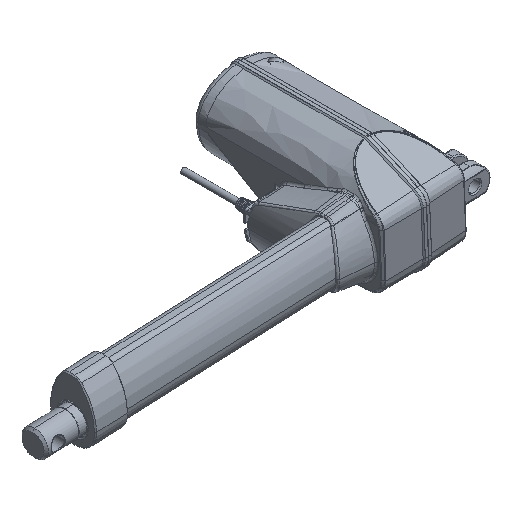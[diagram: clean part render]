
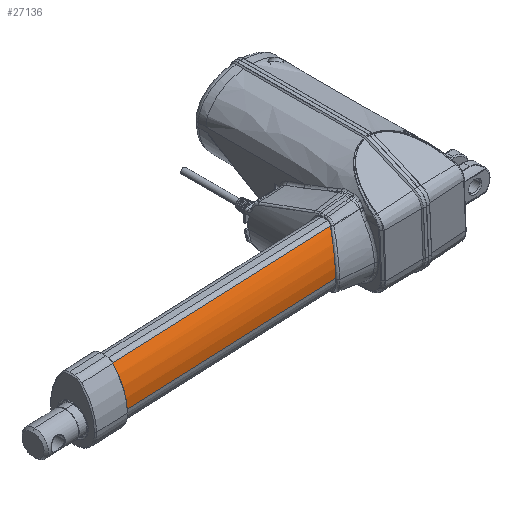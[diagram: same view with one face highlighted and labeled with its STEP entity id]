
A CAD part, isometric view. The second image highlights one B-rep face of the part: STEP entity #27136.
In plain terms, the highlighted cylindrical face has radius 50 mm (diameter 100 mm), a partial arc.
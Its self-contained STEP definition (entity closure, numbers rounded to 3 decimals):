
#17450=CARTESIAN_POINT('',(-256.325,-32.602,
-34.549));
#17451=DIRECTION('',(0.999,0.,0.044));
#17452=DIRECTION('',(-0.028,-0.772,0.635));
#17453=AXIS2_PLACEMENT_3D('',#17450,#17451,#17452);
#17463=CARTESIAN_POINT('',(-41.801,-71.204,
6.653));
#17464=CARTESIAN_POINT('',(-41.619,-71.474,
6.333));
#17465=CARTESIAN_POINT('',(-41.19,-71.988,
5.71));
#17466=CARTESIAN_POINT('',(-40.287,-72.714,
4.796));
#17467=CARTESIAN_POINT('',(-39.592,-73.1,
4.295));
#17468=CARTESIAN_POINT('',(-39.215,-73.277,
4.064));
#17470=DIRECTION('',(-0.999,0.,-0.044));
#17471=VECTOR('',#17470,218.591);
#17472=CARTESIAN_POINT('',(-37.943,-82.6,
-24.984));
#17473=LINE('',#17472,#17471);
#17474=DIRECTION('',(0.999,0.,0.044));
#17475=VECTOR('',#17474,216.121);
#17476=CARTESIAN_POINT('',(-257.715,-71.208,
-2.807));
#17477=LINE('',#17476,#17475);
#17711=CARTESIAN_POINT('',(-37.943,-32.6,-24.984));
#17712=DIRECTION('',(-0.999,0.,-0.044));
#17713=DIRECTION('',(0.,-1.,0.));
#17714=AXIS2_PLACEMENT_3D('',#17711,#17712,#17713);
#17716=CARTESIAN_POINT('',(-39.215,-73.277,
4.064));
#23217=VERTEX_POINT('',#17716);
#23218=VERTEX_POINT('',#17463);
#23255=CARTESIAN_POINT('',(-37.943,-82.6,
-24.984));
#23256=VERTEX_POINT('',#23255);
#23257=CARTESIAN_POINT('',(-256.325,-82.6,
-34.549));
#23258=VERTEX_POINT('',#23257);
#23259=CARTESIAN_POINT('',(-257.715,-71.206,
-2.806));
#23260=VERTEX_POINT('',#23259);
#27121=CARTESIAN_POINT('',(-282.443,-32.6,-35.693));
#27122=DIRECTION('',(0.999,0.,0.044));
#27123=DIRECTION('',(0.,1.,0.));
#27124=AXIS2_PLACEMENT_3D('',#27121,#27122,#27123);
#27125=CYLINDRICAL_SURFACE('',#27124,50.);
#27127=ORIENTED_EDGE('',*,*,#27126,.T.);
#27129=ORIENTED_EDGE('',*,*,#27128,.F.);
#27130=ORIENTED_EDGE('',*,*,#27084,.T.);
#27131=ORIENTED_EDGE('',*,*,#27112,.F.);
#27133=ORIENTED_EDGE('',*,*,#27132,.T.);
#27134=EDGE_LOOP('',(#27127,#27129,#27130,#27131,#27133));
#27135=FACE_OUTER_BOUND('',#27134,.F.);
#27136=ADVANCED_FACE('',(#27135),#27125,.T.);
#17454=CIRCLE('',#17453,49.998);
#17469=B_SPLINE_CURVE_WITH_KNOTS('',3,(#17463,#17464,#17465,#17466,#17467,
#17468),.UNSPECIFIED.,.F.,.F.,(4,1,1,4),(0.,0.333,
0.667,1.),.UNSPECIFIED.);
#17715=CIRCLE('',#17714,50.);
#27084=EDGE_CURVE('',#23256,#23258,#17473,.T.);
#27112=EDGE_CURVE('',#23260,#23258,#17454,.T.);
#27126=EDGE_CURVE('',#23218,#23217,#17469,.T.);
#27128=EDGE_CURVE('',#23256,#23217,#17715,.T.);
#27132=EDGE_CURVE('',#23260,#23218,#17477,.T.);
